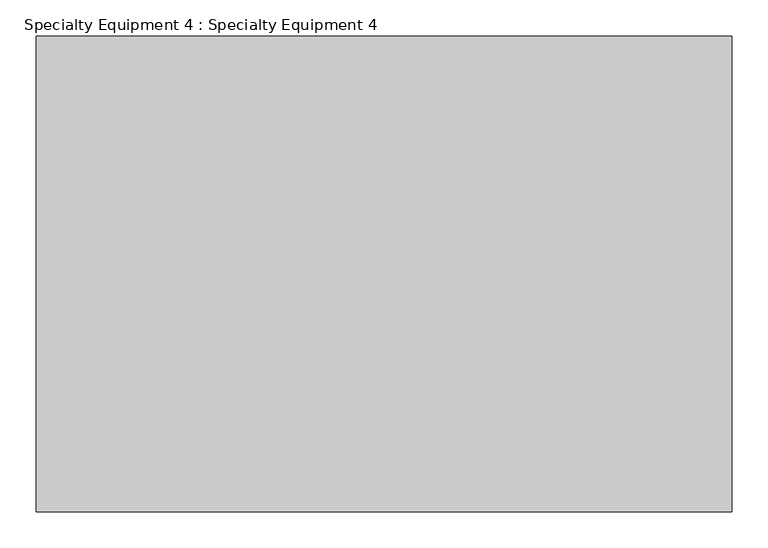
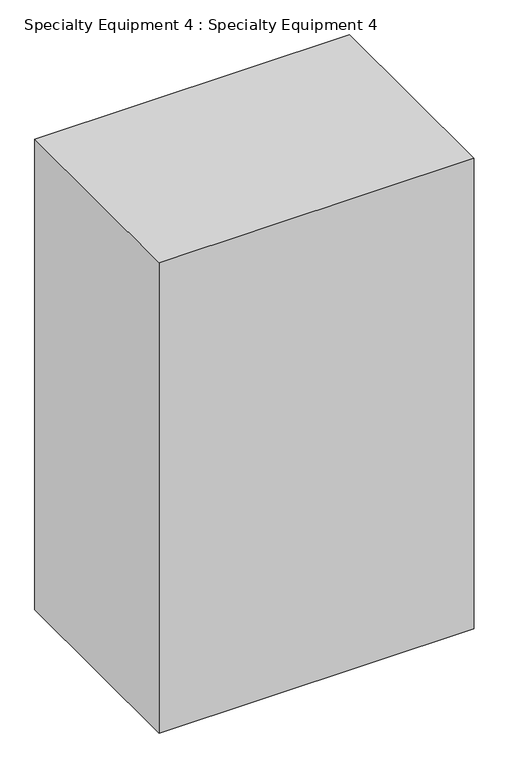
"""IFC4 building model written with IfcOpenShell, lengths in millimetres: proxy geometry, Specialty Equipment 4 : Specialty Equipment 4."""

import ifcopenshell
import ifcopenshell.guid

model = None  # the IFC model being written
_history = None  # IfcOwnerHistory: only IFC2X3 demands one
_inside = {}  # id of a spatial element -> (the spatial element, [elements in it])
_under = {}  # id of a project, library or spatial element -> (it, [spatial elements below it])
_declared = {}  # id of a project -> (the project, [libraries it declares])
_typed = {}  # id of a type object -> (the type object, [elements of that type])
_made_of = {}  # id of a material, layer set ... -> (it, [elements and type objects made of it])


def new_model(schema):
    """Start an empty IFC model of exactly this schema.

    Asked for "IFC4X3", IfcOpenShell would pick the latest addendum, in which some entities
    have other attributes; the version numbers below select the first issue.
    IFC2X3 requires an IfcOwnerHistory on every rooted entity: one is made here for all.
    """
    global model, _history
    if schema == "IFC4X3":
        model = ifcopenshell.file(schema_version=(4, 3, 0, 0))
    else:
        model = ifcopenshell.file(schema=schema)
    _inside.clear()
    _under.clear()
    _declared.clear()
    _typed.clear()
    _made_of.clear()
    _history = None
    if model.schema == "IFC2X3":
        org = make("IfcOrganization", Name="unknown")
        user = make(
            "IfcPersonAndOrganization",
            ThePerson=make("IfcPerson", FamilyName="unknown"),
            TheOrganization=org,
        )
        app = make(
            "IfcApplication",
            ApplicationDeveloper=org,
            Version="unknown",
            ApplicationFullName="unknown",
            ApplicationIdentifier="unknown",
        )
        _history = make(
            "IfcOwnerHistory",
            OwningUser=user,
            OwningApplication=app,
            ChangeAction="ADDED",
            CreationDate=0,
        )
    return model


def make(cls, **values):
    """One entity of the class cls with the attributes given. An attribute that is None is left unset."""
    return model.create_entity(
        cls, **{name: value for name, value in values.items() if value is not None}
    )


def rooted(cls, **values):
    """An entity with a GlobalId (a new one), such as an element, a storey or a relation."""
    return make(cls, GlobalId=ifcopenshell.guid.new(), OwnerHistory=_history, **values)


def si_unit(unit_type, name, prefix=None):
    """IfcSIUnit, for example si_unit("LENGTHUNIT", "METRE", prefix="MILLI")."""
    return make("IfcSIUnit", UnitType=unit_type, Prefix=prefix, Name=name)


def assignment(units):
    """IfcUnitAssignment: the units of a project."""
    return None if units is None else make("IfcUnitAssignment", Units=units)


def point(xyz):
    """IfcCartesianPoint."""
    return None if xyz is None else make("IfcCartesianPoint", Coordinates=xyz)


def direction(xyz):
    """IfcDirection."""
    return None if xyz is None else make("IfcDirection", DirectionRatios=xyz)


def frame(location, z_axis=None, x_axis=None):
    """IfcAxis2Placement3D, a coordinate frame: its origin and axes. An axis left out is left unset."""
    return make(
        "IfcAxis2Placement3D",
        Location=point(location),
        Axis=direction(z_axis),
        RefDirection=direction(x_axis),
    )


def origin():
    """The frame at (0, 0, 0) with its axes left unset."""
    return frame((0.0, 0.0, 0.0))


def place(relative_to, where):
    """IfcLocalPlacement: puts the frame where relative to a parent placement (None: the world)."""
    return make(
        "IfcLocalPlacement", PlacementRelTo=relative_to, RelativePlacement=where
    )


def context(
    kind, dimensions, precision=None, world=None, true_north=None, identifier=None
):
    """IfcGeometricRepresentationContext, for example the 3D "Model" context."""
    return make(
        "IfcGeometricRepresentationContext",
        ContextIdentifier=identifier,
        ContextType=kind,
        CoordinateSpaceDimension=dimensions,
        Precision=precision,
        WorldCoordinateSystem=world,
        TrueNorth=true_north,
    )


def project(units=None, contexts=None):
    """IfcProject with its units and contexts."""
    return rooted(
        "IfcProject",
        Name="project",
        RepresentationContexts=contexts,
        UnitsInContext=assignment(units),
    )


def spatial(cls, under=None, at=None, **own):
    """A site, building, storey or space (cls), placed at a placement, below another one or the project."""
    s = rooted(cls, ObjectPlacement=at, **own)
    if under is not None:
        _under.setdefault(under.id(), (under, []))[1].append(s)
    return s


def polyline(points):
    """IfcPolyline through the points."""
    return make("IfcPolyline", Points=[point(p) for p in points])


def outline(outer, holes=None, kind="AREA"):
    """IfcArbitraryClosedProfileDef: a profile drawn as a closed curve; with holes, ...WithVoids."""
    if holes is None:
        return make("IfcArbitraryClosedProfileDef", ProfileType=kind, OuterCurve=outer)
    return make(
        "IfcArbitraryProfileDefWithVoids",
        ProfileType=kind,
        OuterCurve=outer,
        InnerCurves=holes,
    )


def extrude(swept, where, along, depth):
    """IfcExtrudedAreaSolid: the profile swept, set in the frame where, extruded along a direction by depth."""
    return make(
        "IfcExtrudedAreaSolid",
        SweptArea=swept,
        Position=where,
        ExtrudedDirection=direction(along),
        Depth=depth,
    )


def shape(context_of_items, identifier, shape_type, items):
    """IfcShapeRepresentation: the items that make up one representation, for example the "Body"."""
    return make(
        "IfcShapeRepresentation",
        ContextOfItems=context_of_items,
        RepresentationIdentifier=identifier,
        RepresentationType=shape_type,
        Items=items,
    )


def source(mapping_origin, context_of_items, identifier, shape_type, items):
    """IfcRepresentationMap: a shape defined once, which mapped items show again and again."""
    return make(
        "IfcRepresentationMap",
        MappingOrigin=mapping_origin,
        MappedRepresentation=shape(context_of_items, identifier, shape_type, items),
    )


def transform(
    local_origin,
    x_axis=None,
    y_axis=None,
    z_axis=None,
    scale=None,
    scale2=None,
    scale3=None,
    uniform=True,
):
    """IfcCartesianTransformationOperator3D, or its non-uniform kind. x_axis, y_axis, z_axis: its Axis1, 2, 3."""
    if uniform:
        return make(
            "IfcCartesianTransformationOperator3D",
            Axis1=direction(x_axis),
            Axis2=direction(y_axis),
            LocalOrigin=point(local_origin),
            Scale=scale,
            Axis3=direction(z_axis),
        )
    return make(
        "IfcCartesianTransformationOperator3DnonUniform",
        Axis1=direction(x_axis),
        Axis2=direction(y_axis),
        LocalOrigin=point(local_origin),
        Scale=scale,
        Axis3=direction(z_axis),
        Scale2=scale2,
        Scale3=scale3,
    )


def mapped(mapping_source, mapping_target):
    """IfcMappedItem: shows the shape of a source again, moved by a transform."""
    return make(
        "IfcMappedItem", MappingSource=mapping_source, MappingTarget=mapping_target
    )


def made_of(thing, what):
    """Note that an element or type object is made of a material, layer set ...; save() writes the relation."""
    if what is not None:
        _made_of.setdefault(what.id(), (what, []))[1].append(thing)
    return thing


def element(
    cls,
    number,
    at=None,
    inside=None,
    cuts=None,
    type_object=None,
    material=None,
    context=None,
    identifier="Body",
    shape_type=None,
    held_by="IfcProductDefinitionShape",
    body=None,
    shapes=None,
    **own,
):
    """One element of the class cls, such as IfcWall. Its Tag is "e" and its number.

    at: its placement. inside: the storey or other place that contains it. cuts: it is an
    opening in that element (IfcRelVoidsElement). A single representation is given by context,
    identifier, shape_type and body (its items); several are given by shapes. held_by: the class
    of the entity that holds the representations. save() writes the other relations.
    """
    e = rooted(cls, Tag="e%d" % number, ObjectPlacement=at, **own)
    if body is not None:
        shapes = [shape(context, identifier, shape_type, body)]
    if shapes is not None:
        e.Representation = make(held_by, Representations=shapes)
    if inside is not None:
        _inside.setdefault(inside.id(), (inside, []))[1].append(e)
    if cuts is not None:
        rooted(
            "IfcRelVoidsElement", RelatingBuildingElement=cuts, RelatedOpeningElement=e
        )
    if type_object is not None:
        _typed.setdefault(type_object.id(), (type_object, []))[1].append(e)
    return made_of(e, material)


def aggregate(whole, parts):
    """IfcRelAggregates: a whole, such as a stair, and the parts it consists of."""
    return rooted("IfcRelAggregates", RelatingObject=whole, RelatedObjects=parts)


def save(model, path):
    """Write the relations noted so far, then the file.

    IfcRelAggregates (storeys below a building ...), IfcRelContainedInSpatialStructure (elements
    in a storey), IfcRelDefinesByType, IfcRelAssociatesMaterial and IfcRelDeclares: one each for
    every whole, place, type object, material and project.
    """
    for whole, parts in _under.values():
        aggregate(whole, parts)
    for where, things in _inside.values():
        rooted(
            "IfcRelContainedInSpatialStructure",
            RelatedElements=things,
            RelatingStructure=where,
        )
    for kind, things in _typed.values():
        rooted("IfcRelDefinesByType", RelatedObjects=things, RelatingType=kind)
    for what, things in _made_of.values():
        rooted("IfcRelAssociatesMaterial", RelatedObjects=things, RelatingMaterial=what)
    for by, libraries in _declared.values():
        rooted("IfcRelDeclares", RelatingContext=by, RelatedDefinitions=libraries)
    model.write(path)


def specialty_equipment_4_specialty_equipment_4_003a8ce4(model_context):
    return source(origin(), model_context, "Body", "SweptSolid", [
        extrude(outline(polyline([(3886.2, 10045.7), (3886.2, 9385.3), (2921.0, 9385.3), (2921.0, 10045.7), (3886.2, 10045.7)])), frame((0.0, 0.0, 3348.0), z_axis=(0.0, 0.0, 1.0), x_axis=(1.0, 0.0, 0.0)), (0.0, 0.0, 1.0), 1524.0),
    ])


if __name__ == "__main__":
    model = new_model("IFC4")
    model_context = context("Model", 3, world=origin())
    ifc_project = project(units=[si_unit("LENGTHUNIT", "METRE", prefix="MILLI")], contexts=[model_context])
    site = spatial("IfcSite", under=ifc_project)
    building = spatial("IfcBuilding", under=site)
    placement = place(None, origin())
    specialty_equipment_4_specialty_equipment_4_shape = specialty_equipment_4_specialty_equipment_4_003a8ce4(model_context)
    element("IfcBuildingElementProxy", 1, Name="Specialty Equipment 4 : Specialty Equipment 4", ObjectType="Specialty Equipment 4 : Specialty Equipment 4", at=placement, inside=building, context=model_context, shape_type="MappedRepresentation", body=[
        mapped(specialty_equipment_4_specialty_equipment_4_shape, transform((0.0, 0.0, 0.0), x_axis=(1.0, 0.0, 0.0), y_axis=(0.0, 1.0, 0.0), z_axis=(0.0, 0.0, 1.0))),
    ])
    save(model, "model.ifc")
